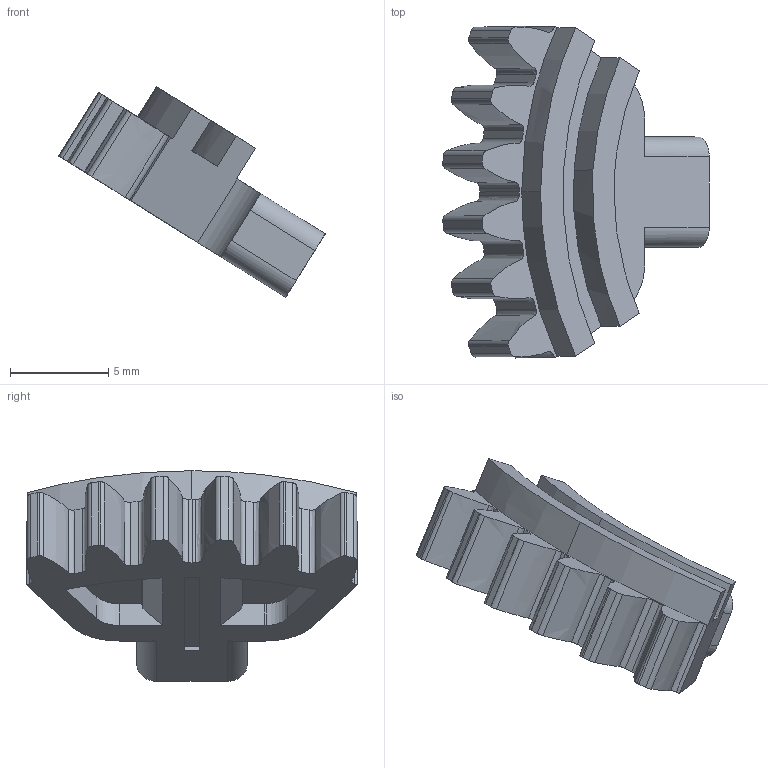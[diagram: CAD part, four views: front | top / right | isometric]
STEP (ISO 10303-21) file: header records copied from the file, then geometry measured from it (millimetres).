
FILE_DESCRIPTION(('CATIA V5 STEP Exchange'),'2;1');
FILE_NAME('C:\Users\Administrator\Desktop\座椅主动阻尼控制系统样件采购申请-\数模\573.4601.06_V1（BPC0010040）.stp','2021-01-28T05:08:00+00:00',('none'),('none'),'CATIA Version 5 Release 21 GA (IN-10)','CATIA V5 STEP AP214','none');
FILE_SCHEMA(('AUTOMOTIVE_DESIGN { 1 0 10303 214 1 1 1 1 }'));
Length unit declared in the file: millimetre
Products named in the file (1): 573.4601.06_V1
Bounding box: 13.54 x 16.86 x 10.7 mm (x, y, z)
Volume: 518.2 mm3; surface area: 753.4 mm2
Topology: 1 solids, 1 shells, 109 faces, 331 edges, 228 vertices
Faces by surface type: cylinder 42, extrusion 34, plane 29, cone 4
Entity records: 5287 total; most frequent: CARTESIAN_POINT 1770, ORIENTED_EDGE 662, DIRECTION 386, EDGE_CURVE 331, VERTEX_POINT 228, VECTOR 177, B_SPLINE_CURVE_WITH_KNOTS 159, LINE 143
